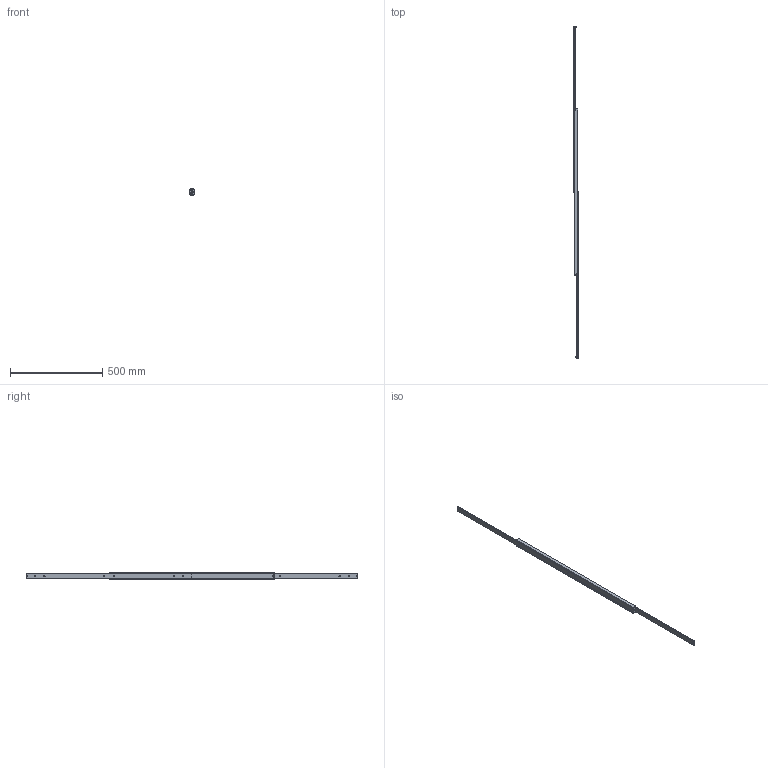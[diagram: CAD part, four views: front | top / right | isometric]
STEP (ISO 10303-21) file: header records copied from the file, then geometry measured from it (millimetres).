
FILE_DESCRIPTION(/* description */ (''),/* implementation_level */ '2;1');
FILE_NAME(/* name */ 'C:\Users\Miluxor\Desktop\Miluxor Schienen\Original Zeichnungen\Zeichnungen Schienen Komplett\MX-DTP40\MX-DTP40.090\MX-DTP40.090_ausgefahren.stp',/* time_stamp */ '2019-09-17T11:45:48+02:00',/* author */ ('Miluxor'),/* organization */ (''),/* preprocessor_version */ 'ST-DEVELOPER v16.13',/* originating_system */ 'AutoCAD Mechanical',/* authorisation */ '');
FILE_SCHEMA (('AUTOMOTIVE_DESIGN { 1 0 10303 214 3 1 1 }'));
Products named in the file (1): Product
Bounding box: 24 x 1800 x 40.5 mm (x, y, z)
Volume: 684124.7 mm3; surface area: 344753.5 mm2
Topology: 113 solids, 113 shells, 702 faces, 1796 edges, 1192 vertices
Faces by surface type: plane 452, cylinder 100, bspline 68, sphere 68, cone 8, torus 6
Full cylindrical faces by diameter (mm): 4 x2, 6 x80, 10 x2
Entity records: 57531 total; most frequent: CARTESIAN_POINT 41485, ORIENTED_EDGE 3104, DIRECTION 2940, EDGE_CURVE 1552, VERTEX_POINT 1182, LINE 1074, VECTOR 1074, EDGE_LOOP 968
